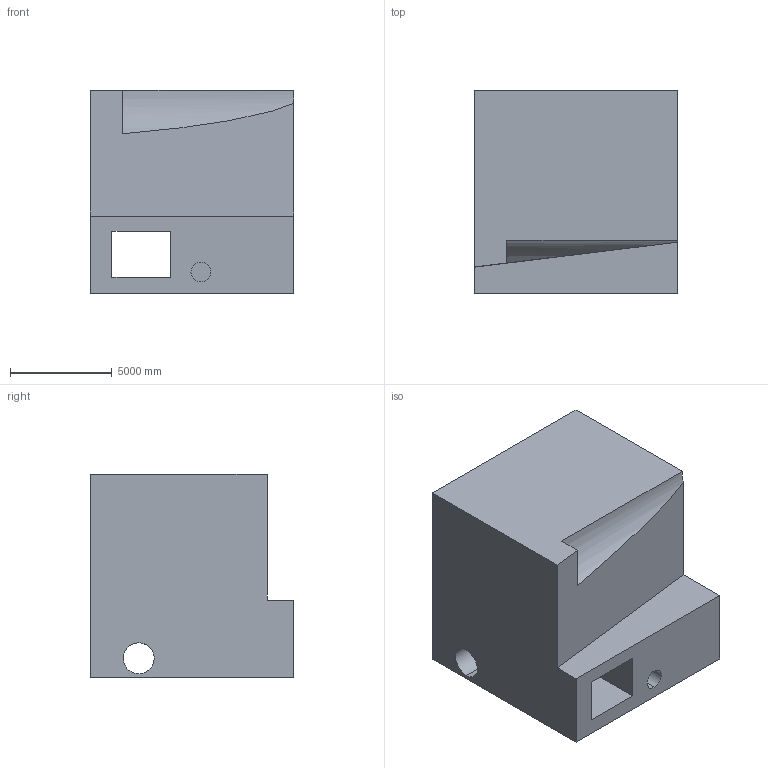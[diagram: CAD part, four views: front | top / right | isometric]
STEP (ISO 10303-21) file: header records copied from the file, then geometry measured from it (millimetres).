
FILE_DESCRIPTION (( 'STEP AP203' ), '1' );
FILE_NAME ('56.STEP', '2022-09-01T14:11:56', ( 'user' ), ( '' ), 'SwSTEP 2.0', 'SolidWorks 2021', '' );
FILE_SCHEMA (( 'CONFIG_CONTROL_DESIGN' ));
Length unit declared in the file: centimetre
Products named in the file (1): 56
Bounding box: 10000 x 10000 x 10000 mm (x, y, z)
Volume: 778752337753.1 mm3; surface area: 729517835.8 mm2
Topology: 1 solids, 1 shells, 27 faces, 75 edges, 50 vertices
Faces by surface type: plane 22, cylinder 5
Entity records: 952 total; most frequent: CARTESIAN_POINT 156, ORIENTED_EDGE 150, DIRECTION 144, EDGE_CURVE 75, VECTOR 60, LINE 60, VERTEX_POINT 50, AXIS2_PLACEMENT_3D 42
